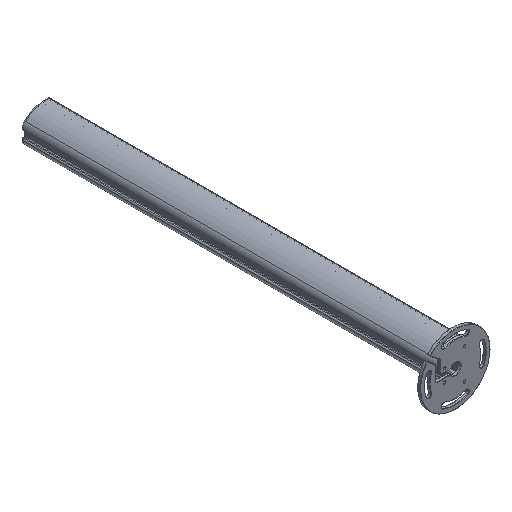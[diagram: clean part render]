
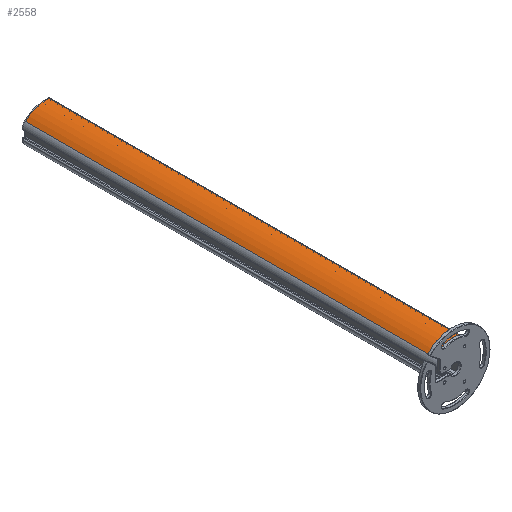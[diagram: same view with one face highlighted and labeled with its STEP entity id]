
A CAD part, isometric view. The second image highlights one B-rep face of the part: STEP entity #2558.
In plain terms, the highlighted cylindrical face has radius 79.059 mm (diameter 158.118 mm), a partial arc.
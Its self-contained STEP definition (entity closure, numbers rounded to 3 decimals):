
#72=CARTESIAN_POINT('',(24.886,-565.,-29.268));
#73=DIRECTION('',(0.,1.,0.));
#74=DIRECTION('',(-0.694,0.,0.72));
#75=AXIS2_PLACEMENT_3D('',#72,#73,#74);
#646=DIRECTION('',(0.,1.,0.));
#647=VECTOR('',#646,1130.);
#648=CARTESIAN_POINT('',(35.448,-565.,49.083));
#649=LINE('',#648,#647);
#650=DIRECTION('',(0.,1.,0.));
#651=VECTOR('',#650,1130.);
#652=CARTESIAN_POINT('',(-30.018,-565.,27.617));
#653=LINE('',#652,#651);
#1015=CARTESIAN_POINT('',(24.886,565.,-29.268));
#1016=DIRECTION('',(0.,1.,0.));
#1017=DIRECTION('',(-0.694,0.,0.72));
#1018=AXIS2_PLACEMENT_3D('',#1015,#1016,#1017);
#1116=CARTESIAN_POINT('',(-30.018,-565.,27.617));
#1117=VERTEX_POINT('',#1116);
#1118=CARTESIAN_POINT('',(35.448,-565.,49.083));
#1119=VERTEX_POINT('',#1118);
#1282=CARTESIAN_POINT('',(-30.018,565.,27.617));
#1283=VERTEX_POINT('',#1282);
#1284=CARTESIAN_POINT('',(35.448,565.,49.083));
#1285=VERTEX_POINT('',#1284);
#2545=CARTESIAN_POINT('',(24.886,-565.,-29.268));
#2546=DIRECTION('',(0.,1.,0.));
#2547=DIRECTION('',(1.,0.,0.));
#2548=AXIS2_PLACEMENT_3D('',#2545,#2546,#2547);
#2549=CYLINDRICAL_SURFACE('',#2548,79.059);
#2550=ORIENTED_EDGE('',*,*,#1453,.F.);
#2552=ORIENTED_EDGE('',*,*,#2551,.T.);
#2554=ORIENTED_EDGE('',*,*,#2553,.T.);
#2555=ORIENTED_EDGE('',*,*,#2537,.F.);
#2556=EDGE_LOOP('',(#2550,#2552,#2554,#2555));
#2557=FACE_OUTER_BOUND('',#2556,.F.);
#2558=ADVANCED_FACE('',(#2557),#2549,.T.);
#76=CIRCLE('',#75,79.059);
#1019=CIRCLE('',#1018,79.059);
#1453=EDGE_CURVE('',#1117,#1119,#76,.T.);
#2537=EDGE_CURVE('',#1119,#1285,#649,.T.);
#2551=EDGE_CURVE('',#1117,#1283,#653,.T.);
#2553=EDGE_CURVE('',#1283,#1285,#1019,.T.);
